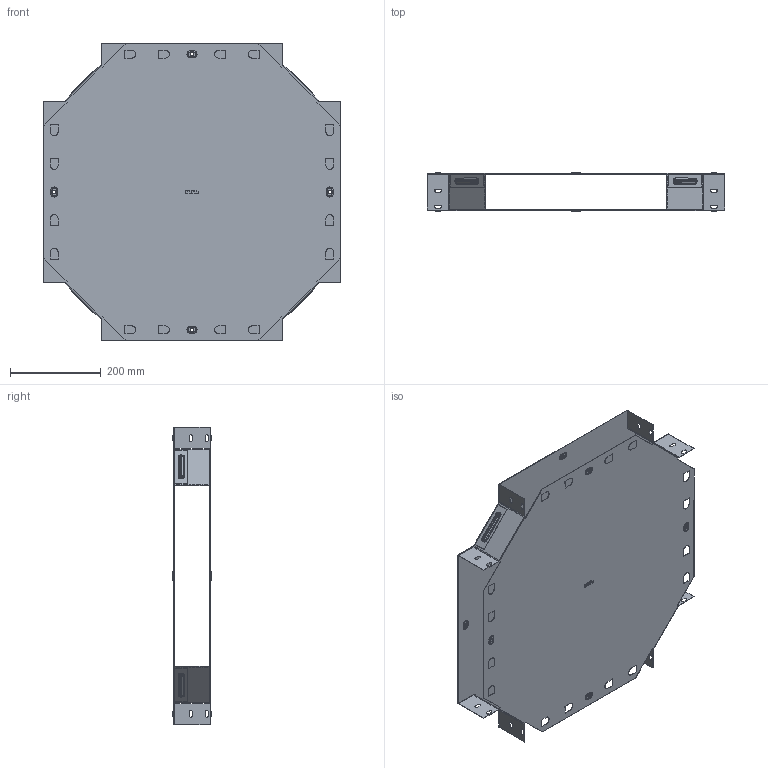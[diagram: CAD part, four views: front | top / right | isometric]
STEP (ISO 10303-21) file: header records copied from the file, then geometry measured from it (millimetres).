
FILE_DESCRIPTION (( 'STEP AP214' ), '1' );
FILE_NAME ('x8040008_捘.STEP', '2019-06-10T07:51:18', ( '砐錪賧瘔蠈錪 Windows' ), ( '' ), 'SwSTEP 2.0', 'SolidWorks 2018', '' );
FILE_SCHEMA (( 'AUTOMOTIVE_DESIGN' ));
Length unit declared in the file: millimetre
Products named in the file (1): x8040008_捘
Bounding box: 655.01 x 83.8 x 655.01 mm (x, y, z)
Volume: 648049.9 mm3; surface area: 1627646.8 mm2
Topology: 2 solids, 2 shells, 1016 faces, 3000 edges, 1952 vertices
Faces by surface type: plane 534, cylinder 336, torus 128, bspline 18
Entity records: 35031 total; most frequent: CARTESIAN_POINT 6927, ORIENTED_EDGE 6000, DIRECTION 5826, EDGE_CURVE 3000, LINE 2100, VECTOR 2100, VERTEX_POINT 1952, AXIS2_PLACEMENT_3D 1863
